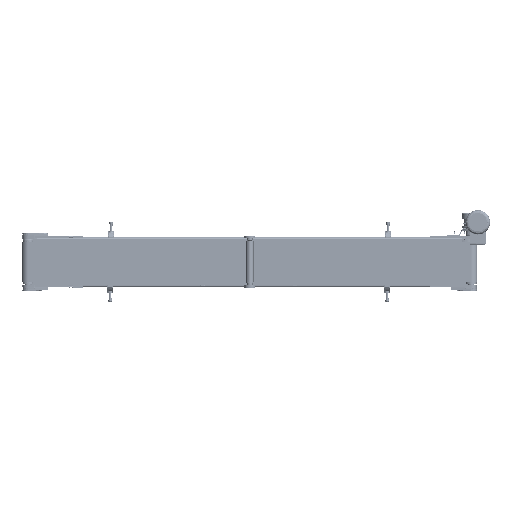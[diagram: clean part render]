
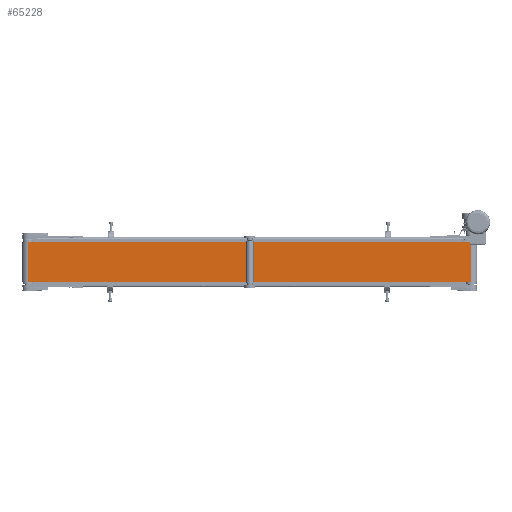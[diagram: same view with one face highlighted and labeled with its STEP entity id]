
A CAD part, front view. The second image highlights one B-rep face of the part: STEP entity #65228.
In plain terms, the highlighted planar face has unit normal (0, -1, 0).
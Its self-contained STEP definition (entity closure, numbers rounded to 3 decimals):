
#1756 = DIRECTION ( 'NONE',  ( 0., 0., 1. ) ) ;
#2549 = FACE_OUTER_BOUND ( 'NONE', #141264, .T. ) ;
#11130 = LINE ( 'NONE', #60946, #130412 ) ;
#13744 = EDGE_CURVE ( 'NONE', #128041, #47537, #69155, .T. ) ;
#20654 = VERTEX_POINT ( 'NONE', #97199 ) ;
#22783 = DIRECTION ( 'NONE',  ( 1., 0., 0. ) ) ;
#26001 = CARTESIAN_POINT ( 'NONE',  ( -1000., -27., -90. ) ) ;
#30027 = CARTESIAN_POINT ( 'NONE',  ( 1000., -27., -90. ) ) ;
#47537 = VERTEX_POINT ( 'NONE', #146208 ) ;
#55710 = LINE ( 'NONE', #91702, #102786 ) ;
#56236 = EDGE_CURVE ( 'NONE', #20654, #111360, #55710, .T. ) ;
#60946 = CARTESIAN_POINT ( 'NONE',  ( -1000., -27., 90. ) ) ;
#61784 = AXIS2_PLACEMENT_3D ( 'NONE', #151129, #80094, #1756 ) ;
#65228 = ADVANCED_FACE ( 'NONE', ( #2549 ), #142104, .F. ) ;
#69155 = LINE ( 'NONE', #118989, #126094 ) ;
#74129 = ORIENTED_EDGE ( 'NONE', *, *, #13744, .T. ) ;
#80094 = DIRECTION ( 'NONE',  ( 0., 1., 0. ) ) ;
#82557 = EDGE_CURVE ( 'NONE', #47537, #111360, #124118, .T. ) ;
#91702 = CARTESIAN_POINT ( 'NONE',  ( 1000., -27., 90. ) ) ;
#92952 = ORIENTED_EDGE ( 'NONE', *, *, #82557, .T. ) ;
#97199 = CARTESIAN_POINT ( 'NONE',  ( 1000., -27., 90. ) ) ;
#102761 = EDGE_CURVE ( 'NONE', #128041, #20654, #11130, .T. ) ;
#102786 = VECTOR ( 'NONE', #105562, 1000. ) ;
#105562 = DIRECTION ( 'NONE',  ( 0., 0., -1. ) ) ;
#105800 = ORIENTED_EDGE ( 'NONE', *, *, #56236, .F. ) ;
#110786 = DIRECTION ( 'NONE',  ( 1., 0., 0. ) ) ;
#111360 = VERTEX_POINT ( 'NONE', #30027 ) ;
#118989 = CARTESIAN_POINT ( 'NONE',  ( -1000., -27., 90. ) ) ;
#120136 = VECTOR ( 'NONE', #22783, 1000. ) ;
#124118 = LINE ( 'NONE', #26001, #120136 ) ;
#126094 = VECTOR ( 'NONE', #126917, 1000. ) ;
#126917 = DIRECTION ( 'NONE',  ( 0., 0., -1. ) ) ;
#128041 = VERTEX_POINT ( 'NONE', #131102 ) ;
#130412 = VECTOR ( 'NONE', #110786, 1000. ) ;
#131102 = CARTESIAN_POINT ( 'NONE',  ( -1000., -27., 90. ) ) ;
#134365 = ORIENTED_EDGE ( 'NONE', *, *, #102761, .F. ) ;
#141264 = EDGE_LOOP ( 'NONE', ( #92952, #105800, #134365, #74129 ) ) ;
#142104 = PLANE ( 'NONE',  #61784 ) ;
#146208 = CARTESIAN_POINT ( 'NONE',  ( -1000., -27., -90. ) ) ;
#151129 = CARTESIAN_POINT ( 'NONE',  ( -1000., -27., 90. ) ) ;
